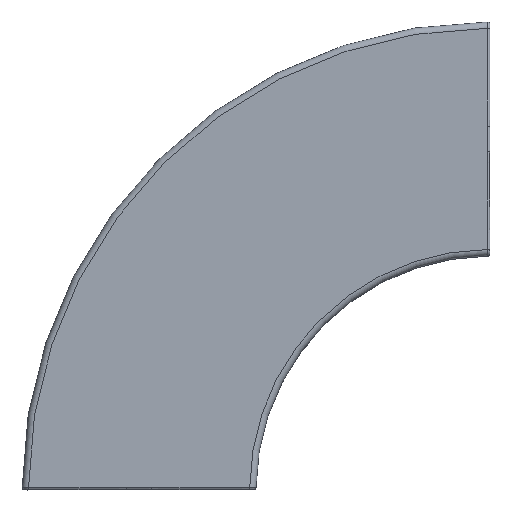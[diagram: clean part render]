
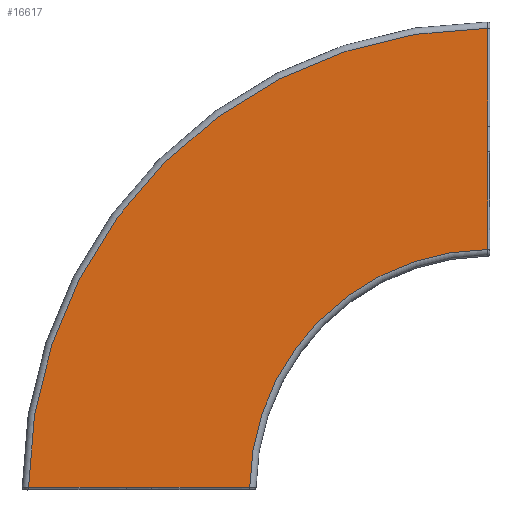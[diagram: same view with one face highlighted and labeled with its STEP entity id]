
A CAD part, top view. The second image highlights one B-rep face of the part: STEP entity #16617.
In plain terms, the highlighted planar face has unit normal (0, 0, 1).
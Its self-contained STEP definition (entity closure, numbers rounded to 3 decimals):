
#16326=CARTESIAN_POINT('Vertex',(-3.538,379.984,370.)) ;
#16465=CARTESIAN_POINT('Vertex',(-379.984,3.538,370.)) ;
#16483=CARTESIAN_POINT('Axis2P3D Location',(0.,0.,370.)) ;
#16488=CARTESIAN_POINT('Axis2P3D Location',(0.,0.,370.)) ;
#16492=CARTESIAN_POINT('Vertex',(-268.701,268.701,370.)) ;
#16495=CARTESIAN_POINT('Axis2P3D Location',(0.,0.,370.)) ;
#16501=CARTESIAN_POINT('Control Point',(-3.57,534.999,370.)) ;
#16502=CARTESIAN_POINT('Control Point',(-3.567,517.39,370.)) ;
#16503=CARTESIAN_POINT('Control Point',(-3.564,499.78,370.)) ;
#16504=CARTESIAN_POINT('Control Point',(-3.559,479.431,370.)) ;
#16505=CARTESIAN_POINT('Control Point',(-3.554,452.744,370.)) ;
#16506=CARTESIAN_POINT('Control Point',(-3.548,426.056,370.)) ;
#16507=CARTESIAN_POINT('Control Point',(-3.546,416.978,370.)) ;
#16508=CARTESIAN_POINT('Control Point',(-3.544,404.434,370.)) ;
#16509=CARTESIAN_POINT('Control Point',(-3.541,391.89,370.)) ;
#16510=CARTESIAN_POINT('Control Point',(-3.54,388.106,370.)) ;
#16511=CARTESIAN_POINT('Control Point',(-3.539,384.088,370.)) ;
#16512=CARTESIAN_POINT('Control Point',(-3.538,379.984,370.)) ;
#16513=CARTESIAN_POINT('Vertex',(-3.57,534.999,370.)) ;
#16517=CARTESIAN_POINT('Control Point',(-3.57,534.999,370.)) ;
#16518=CARTESIAN_POINT('Control Point',(-3.571,538.191,370.)) ;
#16519=CARTESIAN_POINT('Control Point',(-3.571,541.361,370.)) ;
#16520=CARTESIAN_POINT('Control Point',(-3.572,544.531,370.)) ;
#16521=CARTESIAN_POINT('Control Point',(-3.573,550.166,370.)) ;
#16522=CARTESIAN_POINT('Control Point',(-3.573,555.8,370.)) ;
#16523=CARTESIAN_POINT('Control Point',(-3.573,558.2,370.)) ;
#16524=CARTESIAN_POINT('Control Point',(-3.572,563.001,370.)) ;
#16525=CARTESIAN_POINT('Control Point',(-3.572,567.801,370.)) ;
#16526=CARTESIAN_POINT('Control Point',(-3.571,570.201,370.)) ;
#16527=CARTESIAN_POINT('Control Point',(-3.571,572.601,370.)) ;
#16528=CARTESIAN_POINT('Control Point',(-3.57,575.001,370.)) ;
#16529=CARTESIAN_POINT('Vertex',(-3.57,575.001,370.)) ;
#16533=CARTESIAN_POINT('Control Point',(-3.57,575.001,370.)) ;
#16534=CARTESIAN_POINT('Control Point',(-3.567,590.467,370.)) ;
#16535=CARTESIAN_POINT('Control Point',(-3.565,606.141,370.)) ;
#16536=CARTESIAN_POINT('Control Point',(-3.561,621.964,370.)) ;
#16537=CARTESIAN_POINT('Control Point',(-3.555,650.85,370.)) ;
#16538=CARTESIAN_POINT('Control Point',(-3.549,679.736,370.)) ;
#16539=CARTESIAN_POINT('Control Point',(-3.546,693.353,370.)) ;
#16540=CARTESIAN_POINT('Control Point',(-3.543,708.852,370.)) ;
#16541=CARTESIAN_POINT('Control Point',(-3.539,724.35,370.)) ;
#16542=CARTESIAN_POINT('Control Point',(-3.539,726.23,370.)) ;
#16543=CARTESIAN_POINT('Control Point',(-3.538,728.111,370.)) ;
#16544=CARTESIAN_POINT('Control Point',(-3.538,729.991,370.)) ;
#16545=CARTESIAN_POINT('Vertex',(-3.538,729.991,370.)) ;
#16548=CARTESIAN_POINT('Axis2P3D Location',(0.,0.,370.)) ;
#16552=CARTESIAN_POINT('Vertex',(-516.188,516.188,370.)) ;
#16555=CARTESIAN_POINT('Axis2P3D Location',(0.,0.,370.)) ;
#16559=CARTESIAN_POINT('Vertex',(-729.991,3.538,370.)) ;
#16563=CARTESIAN_POINT('Control Point',(-575.001,3.57,370.)) ;
#16564=CARTESIAN_POINT('Control Point',(-592.603,3.567,370.)) ;
#16565=CARTESIAN_POINT('Control Point',(-610.206,3.564,370.)) ;
#16566=CARTESIAN_POINT('Control Point',(-630.583,3.559,370.)) ;
#16567=CARTESIAN_POINT('Control Point',(-657.263,3.554,370.)) ;
#16568=CARTESIAN_POINT('Control Point',(-683.944,3.548,370.)) ;
#16569=CARTESIAN_POINT('Control Point',(-693.022,3.546,370.)) ;
#16570=CARTESIAN_POINT('Control Point',(-705.56,3.544,370.)) ;
#16571=CARTESIAN_POINT('Control Point',(-718.098,3.541,370.)) ;
#16572=CARTESIAN_POINT('Control Point',(-721.876,3.54,370.)) ;
#16573=CARTESIAN_POINT('Control Point',(-725.89,3.539,370.)) ;
#16574=CARTESIAN_POINT('Control Point',(-729.991,3.538,370.)) ;
#16575=CARTESIAN_POINT('Vertex',(-575.001,3.57,370.)) ;
#16579=CARTESIAN_POINT('Control Point',(-534.999,3.57,370.)) ;
#16580=CARTESIAN_POINT('Control Point',(-540.698,3.571,370.)) ;
#16581=CARTESIAN_POINT('Control Point',(-546.059,3.572,370.)) ;
#16582=CARTESIAN_POINT('Control Point',(-551.092,3.573,370.)) ;
#16583=CARTESIAN_POINT('Control Point',(-559.392,3.573,370.)) ;
#16584=CARTESIAN_POINT('Control Point',(-567.693,3.572,370.)) ;
#16585=CARTESIAN_POINT('Control Point',(-570.124,3.571,370.)) ;
#16586=CARTESIAN_POINT('Control Point',(-572.573,3.571,370.)) ;
#16587=CARTESIAN_POINT('Control Point',(-575.001,3.57,370.)) ;
#16588=CARTESIAN_POINT('Vertex',(-534.999,3.57,370.)) ;
#16592=CARTESIAN_POINT('Control Point',(-379.984,3.538,370.)) ;
#16593=CARTESIAN_POINT('Control Point',(-380.23,3.538,370.)) ;
#16594=CARTESIAN_POINT('Control Point',(-380.477,3.538,370.)) ;
#16595=CARTESIAN_POINT('Control Point',(-380.724,3.538,370.)) ;
#16596=CARTESIAN_POINT('Control Point',(-396.227,3.542,370.)) ;
#16597=CARTESIAN_POINT('Control Point',(-411.731,3.545,370.)) ;
#16598=CARTESIAN_POINT('Control Point',(-426.987,3.548,370.)) ;
#16599=CARTESIAN_POINT('Control Point',(-457.447,3.554,370.)) ;
#16600=CARTESIAN_POINT('Control Point',(-487.906,3.561,370.)) ;
#16601=CARTESIAN_POINT('Control Point',(-504.049,3.565,370.)) ;
#16602=CARTESIAN_POINT('Control Point',(-519.671,3.567,370.)) ;
#16603=CARTESIAN_POINT('Control Point',(-534.999,3.57,370.)) ;
#16484=DIRECTION('Axis2P3D Direction',(0.,0.,1.)) ;
#16485=DIRECTION('Axis2P3D XDirection',(1.,0.,0.)) ;
#16489=DIRECTION('Axis2P3D Direction',(0.,0.,1.)) ;
#16496=DIRECTION('Axis2P3D Direction',(0.,0.,1.)) ;
#16549=DIRECTION('Axis2P3D Direction',(0.,0.,1.)) ;
#16556=DIRECTION('Axis2P3D Direction',(0.,0.,1.)) ;
#16486=AXIS2_PLACEMENT_3D('Plane Axis2P3D',#16483,#16484,#16485) ;
#16490=AXIS2_PLACEMENT_3D('Circle Axis2P3D',#16488,#16489,$) ;
#16497=AXIS2_PLACEMENT_3D('Circle Axis2P3D',#16495,#16496,$) ;
#16550=AXIS2_PLACEMENT_3D('Circle Axis2P3D',#16548,#16549,$) ;
#16557=AXIS2_PLACEMENT_3D('Circle Axis2P3D',#16555,#16556,$) ;
#16491=CIRCLE('generated circle',#16490,380.) ;
#16498=CIRCLE('generated circle',#16497,380.) ;
#16551=CIRCLE('generated circle',#16550,730.) ;
#16558=CIRCLE('generated circle',#16557,730.) ;
#16487=PLANE('',#16486) ;
#16494=EDGE_CURVE('',#16493,#16466,#16491,.T.) ;
#16499=EDGE_CURVE('',#16327,#16493,#16498,.T.) ;
#16515=EDGE_CURVE('',#16514,#16327,#16500,.T.) ;
#16531=EDGE_CURVE('',#16530,#16514,#16516,.F.) ;
#16547=EDGE_CURVE('',#16546,#16530,#16532,.F.) ;
#16554=EDGE_CURVE('',#16546,#16553,#16551,.T.) ;
#16561=EDGE_CURVE('',#16553,#16560,#16558,.T.) ;
#16577=EDGE_CURVE('',#16576,#16560,#16562,.T.) ;
#16590=EDGE_CURVE('',#16589,#16576,#16578,.T.) ;
#16604=EDGE_CURVE('',#16466,#16589,#16591,.T.) ;
#16606=ORIENTED_EDGE('',*,*,#16494,.F.) ;
#16607=ORIENTED_EDGE('',*,*,#16499,.F.) ;
#16608=ORIENTED_EDGE('',*,*,#16515,.F.) ;
#16609=ORIENTED_EDGE('',*,*,#16531,.F.) ;
#16610=ORIENTED_EDGE('',*,*,#16547,.F.) ;
#16611=ORIENTED_EDGE('',*,*,#16554,.T.) ;
#16612=ORIENTED_EDGE('',*,*,#16561,.T.) ;
#16613=ORIENTED_EDGE('',*,*,#16577,.F.) ;
#16614=ORIENTED_EDGE('',*,*,#16590,.F.) ;
#16615=ORIENTED_EDGE('',*,*,#16604,.F.) ;
#16605=EDGE_LOOP('',(#16606,#16607,#16608,#16609,#16610,#16611,#16612,#16613,#16614,#16615)) ;
#16327=VERTEX_POINT('',#16326) ;
#16466=VERTEX_POINT('',#16465) ;
#16493=VERTEX_POINT('',#16492) ;
#16514=VERTEX_POINT('',#16513) ;
#16530=VERTEX_POINT('',#16529) ;
#16546=VERTEX_POINT('',#16545) ;
#16553=VERTEX_POINT('',#16552) ;
#16560=VERTEX_POINT('',#16559) ;
#16576=VERTEX_POINT('',#16575) ;
#16589=VERTEX_POINT('',#16588) ;
#16617=ADVANCED_FACE('Panca-TWIST',(#16616),#16487,.T.) ;
#16500=B_SPLINE_CURVE_WITH_KNOTS('',5,(#16501,#16502,#16503,#16504,#16505,#16506,#16507,#16508,#16509,#16510,#16511,#16512),.UNSPECIFIED.,.F.,.U.,(6,3,3,6),(482.688,607.202,671.395,695.901),.UNSPECIFIED.) ;
#16516=B_SPLINE_CURVE_WITH_KNOTS('',5,(#16517,#16518,#16519,#16520,#16521,#16522,#16523,#16524,#16525,#16526,#16527,#16528),.UNSPECIFIED.,.F.,.U.,(6,3,3,6),(923.599,946.468,963.439,980.41),.UNSPECIFIED.) ;
#16532=B_SPLINE_CURVE_WITH_KNOTS('',5,(#16533,#16534,#16535,#16536,#16537,#16538,#16539,#16540,#16541,#16542,#16543,#16544),.UNSPECIFIED.,.F.,.U.,(6,3,3,6),(1013.612,1121.576,1217.865,1231.162),.UNSPECIFIED.) ;
#16562=B_SPLINE_CURVE_WITH_KNOTS('',5,(#16563,#16564,#16565,#16566,#16567,#16568,#16569,#16570,#16571,#16572,#16573,#16574),.UNSPECIFIED.,.F.,.U.,(6,3,3,6),(1003.167,1127.633,1191.825,1216.287),.UNSPECIFIED.) ;
#16578=B_SPLINE_CURVE_WITH_KNOTS('',5,(#16579,#16580,#16581,#16582,#16583,#16584,#16585,#16586,#16587),.UNSPECIFIED.,.F.,.U.,(6,3,6),(917.863,959.966,976.553),.UNSPECIFIED.) ;
#16591=B_SPLINE_CURVE_WITH_KNOTS('',5,(#16592,#16593,#16594,#16595,#16596,#16597,#16598,#16599,#16600,#16601,#16602,#16603),.UNSPECIFIED.,.F.,.U.,(6,3,3,6),(723.741,725.486,833.363,940.867),.UNSPECIFIED.) ;
#16616=FACE_OUTER_BOUND('',#16605,.T.) ;
